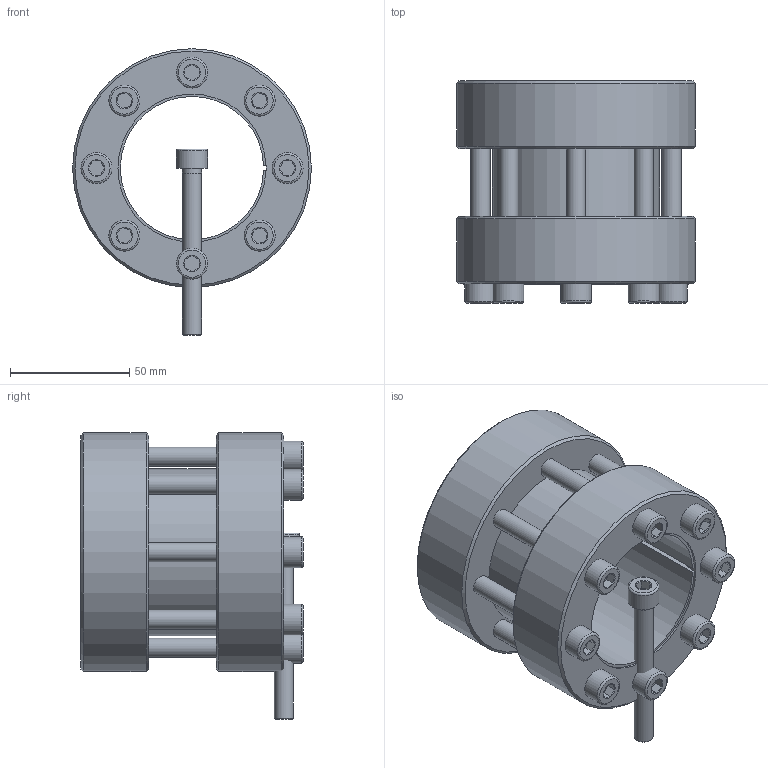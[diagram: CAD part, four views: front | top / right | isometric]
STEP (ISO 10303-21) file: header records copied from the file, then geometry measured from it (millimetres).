
FILE_DESCRIPTION( ( 'Unknown' ), '1' );
FILE_NAME( 'C:/Dokumente und Einstellungen/Sven/Desktop/homepage/cad - homepage/KBS95/KBS 95 - 60 x 100.stp', 'Unknown', ( 'Unknown' ), ( 'Unknown' ), 'XStep 1.0', 'Unknown', ' ' );
FILE_SCHEMA( ( 'automotive_design' ) );
Length unit declared in the file: millimetre
Products named in the file (3): Assem1; KBS 95 - 60 x 100; ISO EN DIN 4762 M8x70
Bounding box: 100 x 93 x 120 mm (x, y, z)
Volume: 618669.8 mm3; surface area: 157361.9 mm2
Topology: 11 solids, 11 shells, 297 faces, 615 edges, 376 vertices
Faces by surface type: plane 128, cylinder 76, cone 75, torus 18
Full cylindrical faces by diameter (mm): 7 x9, 8 x50, 13 x9, 100 x4
Entity records: 1986 total; most frequent: CARTESIAN_POINT 327, DIRECTION 308, ORIENTED_EDGE 222, AXIS2_PLACEMENT_3D 136, EDGE_LOOP 130, EDGE_CURVE 111, VERTEX_POINT 87, FACE_OUTER_BOUND 85
